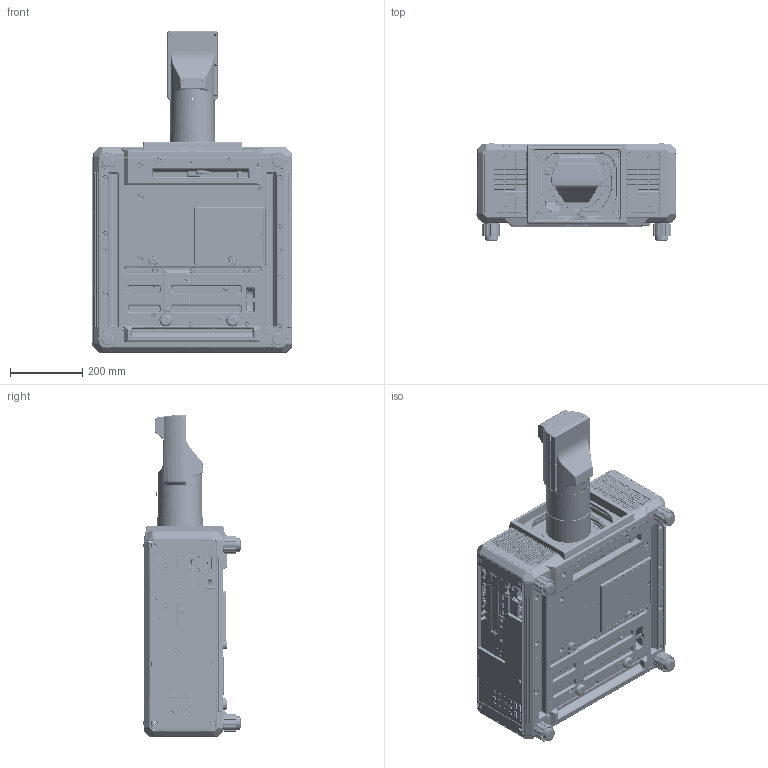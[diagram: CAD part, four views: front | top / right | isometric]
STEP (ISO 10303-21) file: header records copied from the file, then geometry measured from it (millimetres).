
FILE_DESCRIPTION(/* description */ (''),/* implementation_level */ '2;1');
FILE_NAME(/* name */ '01103102_ZA00_RQ25K_D75LE95_FACE.stp',/* time_stamp */ '2022-12-02T16:33:33+09:00',/* author */ (''),/* organization */ (''),/* preprocessor_version */ 'ST-DEVELOPER v16',/* originating_system */ 'SIEMENS PLM Software NX 10.0',/* authorisation */ '');
FILE_SCHEMA (('AUTOMOTIVE_DESIGN { 1 0 10303 214 3 1 1 1 }'));
Products named in the file (1): 01103102_ZA00
Bounding box: 556.3 x 269 x 891.66 mm (x, y, z)
Surface area: 1961421.8 mm2 (no closed solid volume)
Topology: 0 solids, 2214 shells, 9996 faces, 45397 edges, 37043 vertices
Faces by surface type: plane 4978, cylinder 3854, torus 455, bspline 423, cone 170, sphere 115, extrusion 1
Full cylindrical faces by diameter (mm): 1.02 x2, 3 x2, 5 x2, 5.5 x2, 5.755 x1, 6 x2, 8 x2, 9.5 x2, 11 x1, 12 x1, 14.9 x1, 37.2 x4, 40 x4, 122.5 x1, 126.5 x1, 154 x1
Entity records: 552712 total; most frequent: CARTESIAN_POINT 128842, DIRECTION 74232, ORIENTED_EDGE 55125, EDGE_CURVE 44924, VERTEX_POINT 36887, VECTOR 25266, LINE 25265, AXIS2_PLACEMENT_3D 24483
